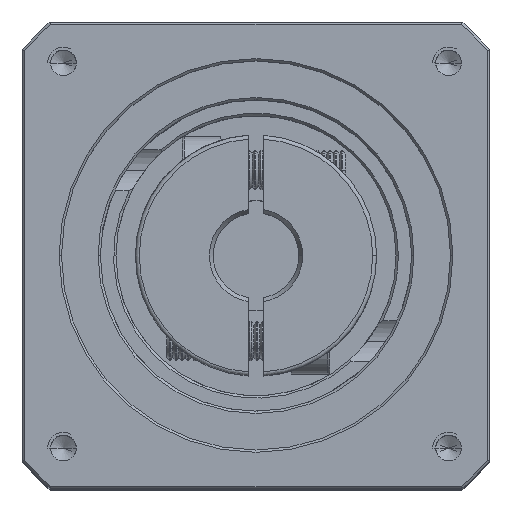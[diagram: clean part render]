
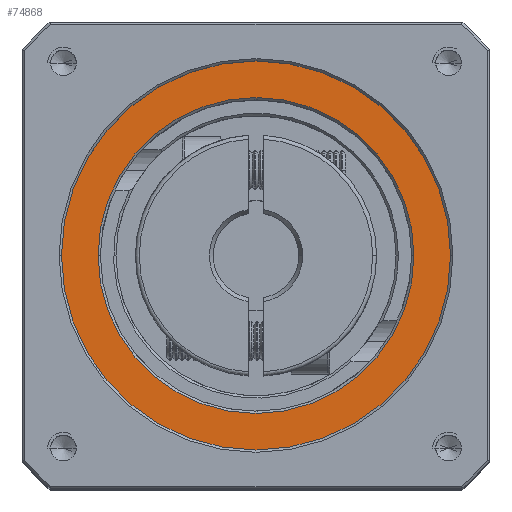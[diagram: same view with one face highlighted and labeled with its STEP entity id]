
A CAD part, top view. The second image highlights one B-rep face of the part: STEP entity #74868.
In plain terms, the highlighted planar face has unit normal (0, 0, 1).
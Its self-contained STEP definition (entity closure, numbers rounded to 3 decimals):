
#2210 = CARTESIAN_POINT ( 'NONE',  ( -26.769, 33.271, -4.382 ) ) ;
#4722 = AXIS2_PLACEMENT_3D ( 'NONE', #48628, #7983, #96237 ) ;
#7093 = DIRECTION ( 'NONE',  ( 0., 0., 1. ) ) ;
#7983 = DIRECTION ( 'NONE',  ( 0., 0., -1. ) ) ;
#8682 = CIRCLE ( 'NONE', #95570, 25. ) ;
#11136 = AXIS2_PLACEMENT_3D ( 'NONE', #32317, #7093, #40039 ) ;
#11197 = FACE_BOUND ( 'NONE', #73216, .T. ) ;
#17203 = CARTESIAN_POINT ( 'NONE',  ( -72.069, 33.271, -4.382 ) ) ;
#18579 = ORIENTED_EDGE ( 'NONE', *, *, #86978, .T. ) ;
#31990 = VERTEX_POINT ( 'NONE', #61922 ) ;
#32317 = CARTESIAN_POINT ( 'NONE',  ( -47.069, 33.271, -4.382 ) ) ;
#36733 = VERTEX_POINT ( 'NONE', #2210 ) ;
#37625 = ORIENTED_EDGE ( 'NONE', *, *, #62864, .T. ) ;
#38646 = AXIS2_PLACEMENT_3D ( 'NONE', #93142, #101217, #93511 ) ;
#40039 = DIRECTION ( 'NONE',  ( 1., 0., 0. ) ) ;
#44601 = DIRECTION ( 'NONE',  ( 1., 0., 0. ) ) ;
#44980 = CARTESIAN_POINT ( 'NONE',  ( -47.069, 33.271, -4.382 ) ) ;
#47067 = CIRCLE ( 'NONE', #11136, 25. ) ;
#48628 = CARTESIAN_POINT ( 'NONE',  ( -47.069, 33.271, -4.382 ) ) ;
#51289 = FACE_OUTER_BOUND ( 'NONE', #91087, .T. ) ;
#52966 = DIRECTION ( 'NONE',  ( 0., 0., 1. ) ) ;
#55864 = VERTEX_POINT ( 'NONE', #59716 ) ;
#58267 = DIRECTION ( 'NONE',  ( 0., 0., -1. ) ) ;
#59716 = CARTESIAN_POINT ( 'NONE',  ( -67.369, 33.271, -4.382 ) ) ;
#60608 = EDGE_CURVE ( 'NONE', #97091, #31990, #47067, .T. ) ;
#61922 = CARTESIAN_POINT ( 'NONE',  ( -22.069, 33.271, -4.382 ) ) ;
#62864 = EDGE_CURVE ( 'NONE', #31990, #97091, #8682, .T. ) ;
#64284 = ORIENTED_EDGE ( 'NONE', *, *, #95500, .T. ) ;
#73216 = EDGE_LOOP ( 'NONE', ( #64284, #18579 ) ) ;
#74868 = ADVANCED_FACE ( 'NONE', ( #11197, #51289 ), #92119, .T. ) ;
#82142 = ORIENTED_EDGE ( 'NONE', *, *, #60608, .T. ) ;
#86978 = EDGE_CURVE ( 'NONE', #55864, #36733, #96959, .T. ) ;
#89790 = CARTESIAN_POINT ( 'NONE',  ( -47.069, 33.271, -4.382 ) ) ;
#91087 = EDGE_LOOP ( 'NONE', ( #37625, #82142 ) ) ;
#91370 = CIRCLE ( 'NONE', #101651, 20.3 ) ;
#92119 = PLANE ( 'NONE',  #38646 ) ;
#93142 = CARTESIAN_POINT ( 'NONE',  ( -47.069, 33.271, -4.382 ) ) ;
#93511 = DIRECTION ( 'NONE',  ( 1., 0., 0. ) ) ;
#95500 = EDGE_CURVE ( 'NONE', #36733, #55864, #91370, .T. ) ;
#95570 = AXIS2_PLACEMENT_3D ( 'NONE', #44980, #52966, #100304 ) ;
#96237 = DIRECTION ( 'NONE',  ( 1., 0., 0. ) ) ;
#96959 = CIRCLE ( 'NONE', #4722, 20.3 ) ;
#97091 = VERTEX_POINT ( 'NONE', #17203 ) ;
#100304 = DIRECTION ( 'NONE',  ( 1., 0., 0. ) ) ;
#101217 = DIRECTION ( 'NONE',  ( 0., 0., 1. ) ) ;
#101651 = AXIS2_PLACEMENT_3D ( 'NONE', #89790, #58267, #44601 ) ;
